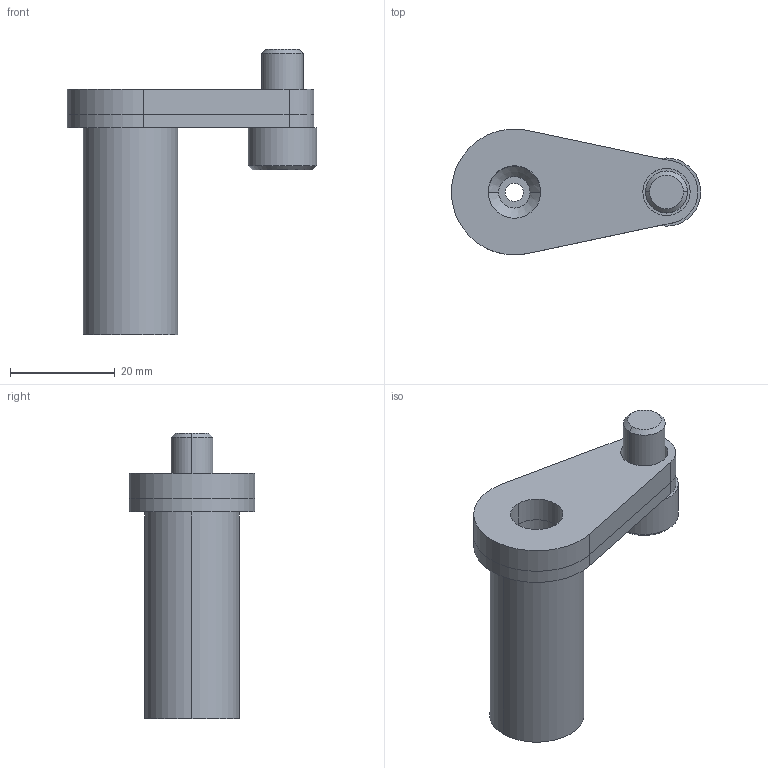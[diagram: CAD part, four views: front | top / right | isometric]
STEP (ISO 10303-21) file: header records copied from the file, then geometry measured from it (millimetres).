
FILE_DESCRIPTION(/* description */ (''),/* implementation_level */ '2;1');
FILE_NAME(/* name */ '3d_pqsp10-42_02943_r00.stp',/* time_stamp */ '2011-01-10T14:11:42+09:00',/* author */ ('MISUMI'),/* organization */ (''),/* preprocessor_version */ 'ST-DEVELOPER v11',/* originating_system */ 'UGS - NX 5.0',/* authorisation */ '');
FILE_SCHEMA (('CONFIG_CONTROL_DESIGN'));
Length unit declared in the file: millimetre
Products named in the file (1): 3d_pqsp10-42_02943_r00
Bounding box: 47.5 x 23.97 x 54.4 mm (x, y, z)
Volume: 14017.3 mm3; surface area: 8782.5 mm2
Topology: 4 solids, 4 shells, 51 faces, 120 edges, 80 vertices
Faces by surface type: plane 21, cylinder 20, cone 10
Entity records: 1594 total; most frequent: DIRECTION 284, CARTESIAN_POINT 252, ORIENTED_EDGE 240, EDGE_CURVE 120, AXIS2_PLACEMENT_3D 112, VERTEX_POINT 80, EDGE_LOOP 64, LINE 60
